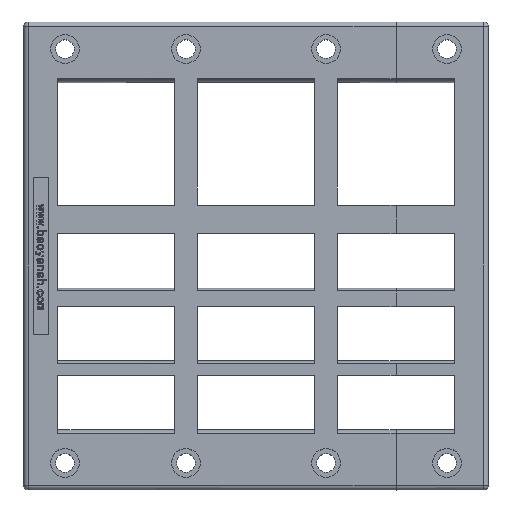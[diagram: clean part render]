
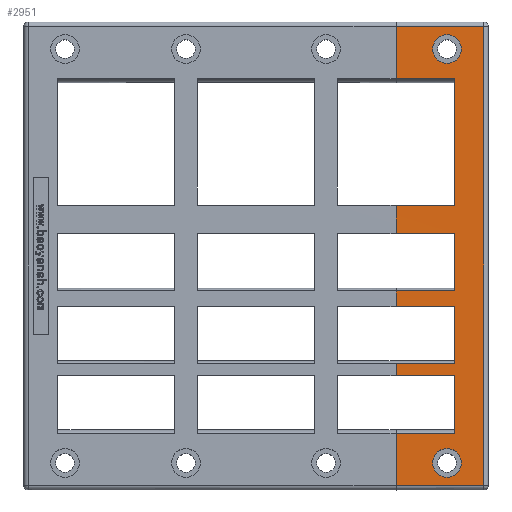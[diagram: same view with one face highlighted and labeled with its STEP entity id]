
A CAD part, top view. The second image highlights one B-rep face of the part: STEP entity #2951.
In plain terms, the highlighted planar face has unit normal (0, 0, 1).
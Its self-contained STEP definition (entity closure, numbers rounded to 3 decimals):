
#1351=CIRCLE('',#33872,4.5);
#1352=CIRCLE('',#33873,4.5);
#1353=CIRCLE('',#33875,4.5);
#1354=CIRCLE('',#33876,4.5);
#1765=FACE_BOUND('',#7448,.T.);
#1766=FACE_BOUND('',#7449,.T.);
#1767=FACE_BOUND('',#7450,.T.);
#2951=ADVANCED_FACE('',(#1765,#1766,#1767),#4286,.T.);
#4286=PLANE('',#33900);
#7448=EDGE_LOOP('',(#16094,#16095));
#7449=EDGE_LOOP('',(#16096,#16097));
#7450=EDGE_LOOP('',(#16098,#16099,#16100,#16101,#16102,#16103,#16104,#16105,
#16106,#16107,#16108,#16109,#16110,#16111,#16112,#16113,#16114,#16115,#16116,
#16117,#16118,#16119));
#16094=ORIENTED_EDGE('',*,*,#26070,.T.);
#16095=ORIENTED_EDGE('',*,*,#26069,.T.);
#16096=ORIENTED_EDGE('',*,*,#26068,.T.);
#16097=ORIENTED_EDGE('',*,*,#26067,.T.);
#16098=ORIENTED_EDGE('',*,*,#26066,.T.);
#16099=ORIENTED_EDGE('',*,*,#26110,.T.);
#16100=ORIENTED_EDGE('',*,*,#24654,.F.);
#16101=ORIENTED_EDGE('',*,*,#26111,.F.);
#16102=ORIENTED_EDGE('',*,*,#26064,.T.);
#16103=ORIENTED_EDGE('',*,*,#26063,.T.);
#16104=ORIENTED_EDGE('',*,*,#26062,.T.);
#16105=ORIENTED_EDGE('',*,*,#26112,.T.);
#16106=ORIENTED_EDGE('',*,*,#24656,.T.);
#16107=ORIENTED_EDGE('',*,*,#26113,.T.);
#16108=ORIENTED_EDGE('',*,*,#26059,.T.);
#16109=ORIENTED_EDGE('',*,*,#26114,.T.);
#16110=ORIENTED_EDGE('',*,*,#24628,.T.);
#16111=ORIENTED_EDGE('',*,*,#26115,.T.);
#16112=ORIENTED_EDGE('',*,*,#26056,.T.);
#16113=ORIENTED_EDGE('',*,*,#26116,.T.);
#16114=ORIENTED_EDGE('',*,*,#24627,.T.);
#16115=ORIENTED_EDGE('',*,*,#26117,.T.);
#16116=ORIENTED_EDGE('',*,*,#26053,.T.);
#16117=ORIENTED_EDGE('',*,*,#26118,.F.);
#16118=ORIENTED_EDGE('',*,*,#24633,.F.);
#16119=ORIENTED_EDGE('',*,*,#26119,.T.);
#19852=VERTEX_POINT('',#44215);
#19855=VERTEX_POINT('',#44221);
#19856=VERTEX_POINT('',#44223);
#19859=VERTEX_POINT('',#44229);
#19860=VERTEX_POINT('',#44231);
#19863=VERTEX_POINT('',#44237);
#19864=VERTEX_POINT('',#44239);
#19868=VERTEX_POINT('',#44247);
#20848=VERTEX_POINT('',#49702);
#20867=VERTEX_POINT('',#49758);
#21752=VERTEX_POINT('',#53706);
#21768=VERTEX_POINT('',#53752);
#21808=VERTEX_POINT('',#53987);
#21809=VERTEX_POINT('',#53989);
#21810=VERTEX_POINT('',#53993);
#21811=VERTEX_POINT('',#53995);
#21812=VERTEX_POINT('',#53999);
#21813=VERTEX_POINT('',#54001);
#21814=VERTEX_POINT('',#54005);
#21815=VERTEX_POINT('',#54007);
#21816=VERTEX_POINT('',#54009);
#21817=VERTEX_POINT('',#54011);
#21818=VERTEX_POINT('',#54017);
#21819=VERTEX_POINT('',#54018);
#21820=VERTEX_POINT('',#54022);
#21821=VERTEX_POINT('',#54023);
#24627=EDGE_CURVE('',#19856,#19855,#28516,.T.);
#24628=EDGE_CURVE('',#19860,#19859,#28517,.T.);
#24633=EDGE_CURVE('',#20848,#19852,#28520,.T.);
#24654=EDGE_CURVE('',#19868,#20867,#28535,.T.);
#24656=EDGE_CURVE('',#19864,#19863,#28536,.T.);
#26053=EDGE_CURVE('',#21809,#21808,#29363,.T.);
#26056=EDGE_CURVE('',#21811,#21810,#29366,.T.);
#26059=EDGE_CURVE('',#21813,#21812,#29369,.T.);
#26062=EDGE_CURVE('',#21815,#21814,#29372,.T.);
#26063=EDGE_CURVE('',#21816,#21815,#29373,.T.);
#26064=EDGE_CURVE('',#21817,#21816,#29374,.T.);
#26066=EDGE_CURVE('',#21768,#21752,#29376,.T.);
#26067=EDGE_CURVE('',#21818,#21819,#1351,.T.);
#26068=EDGE_CURVE('',#21819,#21818,#1352,.T.);
#26069=EDGE_CURVE('',#21820,#21821,#1353,.T.);
#26070=EDGE_CURVE('',#21821,#21820,#1354,.T.);
#26110=EDGE_CURVE('',#21752,#20867,#29394,.T.);
#26111=EDGE_CURVE('',#21817,#19868,#29395,.T.);
#26112=EDGE_CURVE('',#21814,#19864,#29396,.T.);
#26113=EDGE_CURVE('',#19863,#21813,#29397,.T.);
#26114=EDGE_CURVE('',#21812,#19860,#29398,.T.);
#26115=EDGE_CURVE('',#19859,#21811,#29399,.T.);
#26116=EDGE_CURVE('',#21810,#19856,#29400,.T.);
#26117=EDGE_CURVE('',#19855,#21809,#29401,.T.);
#26118=EDGE_CURVE('',#19852,#21808,#29402,.T.);
#26119=EDGE_CURVE('',#20848,#21768,#29403,.T.);
#28516=LINE('',#49688,#31118);
#28517=LINE('',#49690,#31119);
#28520=LINE('',#49703,#31122);
#28535=LINE('',#49757,#31137);
#28536=LINE('',#49761,#31138);
#29363=LINE('',#53988,#31965);
#29366=LINE('',#53994,#31968);
#29369=LINE('',#54000,#31971);
#29372=LINE('',#54006,#31974);
#29373=LINE('',#54008,#31975);
#29374=LINE('',#54010,#31976);
#29376=LINE('',#54014,#31978);
#29394=LINE('',#54146,#31996);
#29395=LINE('',#54147,#31997);
#29396=LINE('',#54148,#31998);
#29397=LINE('',#54149,#31999);
#29398=LINE('',#54150,#32000);
#29399=LINE('',#54151,#32001);
#29400=LINE('',#54152,#32002);
#29401=LINE('',#54153,#32003);
#29402=LINE('',#54154,#32004);
#29403=LINE('',#54155,#32005);
#31118=VECTOR('',#37644,1.);
#31119=VECTOR('',#37647,1.);
#31122=VECTOR('',#37656,1.);
#31137=VECTOR('',#37697,1.);
#31138=VECTOR('',#37702,1.);
#31965=VECTOR('',#39843,1.);
#31968=VECTOR('',#39848,1.);
#31971=VECTOR('',#39853,1.);
#31974=VECTOR('',#39858,1.);
#31975=VECTOR('',#39859,1.);
#31976=VECTOR('',#39860,1.);
#31978=VECTOR('',#39864,1.);
#31996=VECTOR('',#39940,1.);
#31997=VECTOR('',#39941,1.);
#31998=VECTOR('',#39942,1.);
#31999=VECTOR('',#39943,1.);
#32000=VECTOR('',#39944,1.);
#32001=VECTOR('',#39945,1.);
#32002=VECTOR('',#39946,1.);
#32003=VECTOR('',#39947,1.);
#32004=VECTOR('',#39948,1.);
#32005=VECTOR('',#39949,1.);
#33872=AXIS2_PLACEMENT_3D('',#54016,#39867,#39868);
#33873=AXIS2_PLACEMENT_3D('',#54019,#39869,#39870);
#33875=AXIS2_PLACEMENT_3D('',#54021,#39873,#39874);
#33876=AXIS2_PLACEMENT_3D('',#54024,#39875,#39876);
#33900=AXIS2_PLACEMENT_3D('',#54156,#39950,#39951);
#37644=DIRECTION('',(0.,-1.,0.));
#37647=DIRECTION('',(0.,-1.,0.));
#37656=DIRECTION('',(0.,1.,0.));
#37697=DIRECTION('',(0.,1.,0.));
#37702=DIRECTION('',(0.,-1.,0.));
#39843=DIRECTION('',(0.,-1.,0.));
#39848=DIRECTION('',(0.,-1.,0.));
#39853=DIRECTION('',(0.,-1.,0.));
#39858=DIRECTION('',(0.,-1.,0.));
#39859=DIRECTION('',(0.,-1.,0.));
#39860=DIRECTION('',(0.,-1.,0.));
#39864=DIRECTION('',(0.,1.,0.));
#39867=DIRECTION('',(0.,0.,-1.));
#39868=DIRECTION('',(1.,0.,0.));
#39869=DIRECTION('',(0.,0.,-1.));
#39870=DIRECTION('',(1.,0.,0.));
#39873=DIRECTION('',(0.,0.,-1.));
#39874=DIRECTION('',(-1.,0.,0.));
#39875=DIRECTION('',(0.,0.,-1.));
#39876=DIRECTION('',(-1.,0.,0.));
#39940=DIRECTION('',(-1.,0.,0.));
#39941=DIRECTION('',(-1.,0.,0.));
#39942=DIRECTION('',(-1.,0.,0.));
#39943=DIRECTION('',(1.,0.,0.));
#39944=DIRECTION('',(-1.,0.,0.));
#39945=DIRECTION('',(1.,0.,0.));
#39946=DIRECTION('',(-1.,0.,0.));
#39947=DIRECTION('',(1.,0.,0.));
#39948=DIRECTION('',(1.,0.,0.));
#39949=DIRECTION('',(1.,0.,0.));
#39950=DIRECTION('',(0.,0.,1.));
#39951=DIRECTION('',(0.,1.,0.));
#44215=CARTESIAN_POINT('',(103.008,-154.81,1.522));
#44221=CARTESIAN_POINT('',(103.008,-136.853,1.522));
#44223=CARTESIAN_POINT('',(103.008,-133.06,1.522));
#44229=CARTESIAN_POINT('',(103.008,-115.103,1.522));
#44231=CARTESIAN_POINT('',(103.008,-110.186,1.522));
#44237=CARTESIAN_POINT('',(103.008,-92.227,1.522));
#44239=CARTESIAN_POINT('',(103.008,-83.31,1.522));
#44247=CARTESIAN_POINT('',(103.008,-43.603,1.522));
#49688=CARTESIAN_POINT('',(103.008,-134.957,1.516));
#49690=CARTESIAN_POINT('',(103.008,-112.645,1.516));
#49702=CARTESIAN_POINT('',(103.008,-171.206,1.516));
#49703=CARTESIAN_POINT('',(103.008,-163.206,1.516));
#49757=CARTESIAN_POINT('',(103.008,-61.56,1.516));
#49758=CARTESIAN_POINT('',(103.008,-27.207,1.516));
#49761=CARTESIAN_POINT('',(103.008,-87.769,1.516));
#53706=CARTESIAN_POINT('',(130.508,-27.207,1.516));
#53752=CARTESIAN_POINT('',(130.508,-171.206,1.516));
#53987=CARTESIAN_POINT('',(121.508,-154.81,1.516));
#53988=CARTESIAN_POINT('',(121.508,-145.832,1.516));
#53989=CARTESIAN_POINT('',(121.508,-136.853,1.516));
#53993=CARTESIAN_POINT('',(121.508,-133.06,1.516));
#53994=CARTESIAN_POINT('',(121.508,-124.082,1.516));
#53995=CARTESIAN_POINT('',(121.508,-115.103,1.516));
#53999=CARTESIAN_POINT('',(121.508,-110.186,1.516));
#54000=CARTESIAN_POINT('',(121.508,-101.207,1.516));
#54001=CARTESIAN_POINT('',(121.508,-92.227,1.516));
#54005=CARTESIAN_POINT('',(121.508,-83.31,1.516));
#54006=CARTESIAN_POINT('',(121.508,-74.332,1.516));
#54007=CARTESIAN_POINT('',(121.508,-65.353,1.516));
#54008=CARTESIAN_POINT('',(121.508,-24.327,1.516));
#54009=CARTESIAN_POINT('',(121.508,-61.56,1.516));
#54010=CARTESIAN_POINT('',(121.508,-52.582,1.516));
#54011=CARTESIAN_POINT('',(121.508,-43.603,1.516));
#54014=CARTESIAN_POINT('',(130.508,-99.207,1.516));
#54016=CARTESIAN_POINT('',(119.008,-164.207,1.516));
#54017=CARTESIAN_POINT('',(119.008,-168.707,1.516));
#54018=CARTESIAN_POINT('',(119.008,-159.707,1.516));
#54019=CARTESIAN_POINT('',(119.008,-164.207,1.516));
#54021=CARTESIAN_POINT('',(119.008,-34.207,1.516));
#54022=CARTESIAN_POINT('',(119.008,-38.707,1.516));
#54023=CARTESIAN_POINT('',(119.008,-29.707,1.516));
#54024=CARTESIAN_POINT('',(119.008,-34.207,1.516));
#54146=CARTESIAN_POINT('',(116.758,-27.207,1.516));
#54147=CARTESIAN_POINT('',(121.903,-43.603,1.516));
#54148=CARTESIAN_POINT('',(102.458,-83.31,1.516));
#54149=CARTESIAN_POINT('',(102.458,-92.227,1.516));
#54150=CARTESIAN_POINT('',(102.458,-110.186,1.516));
#54151=CARTESIAN_POINT('',(102.458,-115.103,1.516));
#54152=CARTESIAN_POINT('',(102.458,-133.06,1.516));
#54153=CARTESIAN_POINT('',(102.458,-136.853,1.516));
#54154=CARTESIAN_POINT('',(101.363,-154.81,1.516));
#54155=CARTESIAN_POINT('',(116.758,-171.206,1.516));
#54156=CARTESIAN_POINT('',(102.458,-24.327,1.516));
